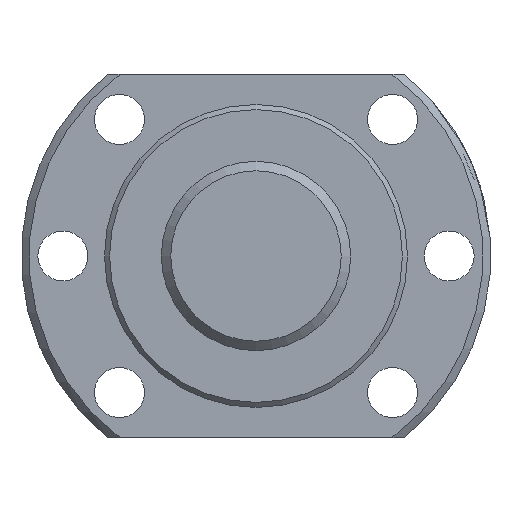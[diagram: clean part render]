
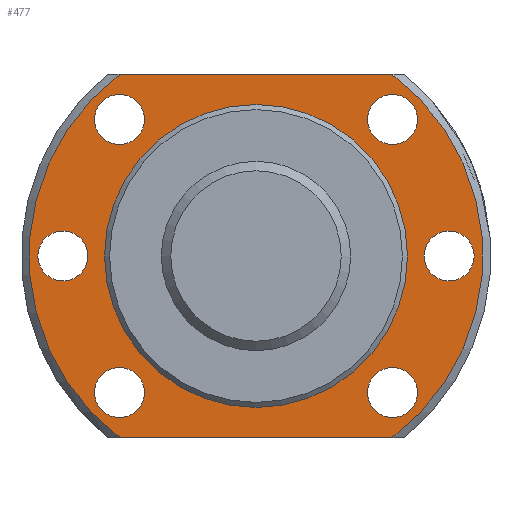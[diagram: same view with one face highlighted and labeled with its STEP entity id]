
A CAD part, left-side view. The second image highlights one B-rep face of the part: STEP entity #477.
In plain terms, the highlighted planar face has unit normal (-1, 0, 0).
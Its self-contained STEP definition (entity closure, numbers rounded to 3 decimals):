
#34=PLANE('',#557);
#61=CIRCLE('',#527,29.967);
#79=CIRCLE('',#556,29.967);
#80=CIRCLE('',#558,20.);
#81=CIRCLE('',#559,3.3);
#82=CIRCLE('',#560,3.3);
#83=CIRCLE('',#561,3.3);
#84=CIRCLE('',#562,3.3);
#85=CIRCLE('',#563,3.3);
#86=CIRCLE('',#564,3.3);
#144=ORIENTED_EDGE('',*,*,#237,.T.);
#145=ORIENTED_EDGE('',*,*,#238,.T.);
#146=ORIENTED_EDGE('',*,*,#239,.F.);
#147=ORIENTED_EDGE('',*,*,#235,.F.);
#148=ORIENTED_EDGE('',*,*,#240,.F.);
#149=ORIENTED_EDGE('',*,*,#208,.F.);
#150=ORIENTED_EDGE('',*,*,#241,.T.);
#151=ORIENTED_EDGE('',*,*,#242,.T.);
#152=ORIENTED_EDGE('',*,*,#243,.T.);
#153=ORIENTED_EDGE('',*,*,#244,.T.);
#154=ORIENTED_EDGE('',*,*,#245,.T.);
#208=EDGE_CURVE('',#259,#260,#61,.T.);
#235=EDGE_CURVE('',#282,#283,#79,.T.);
#237=EDGE_CURVE('',#284,#284,#80,.T.);
#238=EDGE_CURVE('',#285,#285,#81,.F.);
#239=EDGE_CURVE('',#283,#259,#303,.T.);
#240=EDGE_CURVE('',#260,#282,#304,.T.);
#241=EDGE_CURVE('',#286,#286,#82,.T.);
#242=EDGE_CURVE('',#287,#287,#83,.T.);
#243=EDGE_CURVE('',#288,#288,#84,.T.);
#244=EDGE_CURVE('',#289,#289,#85,.T.);
#245=EDGE_CURVE('',#290,#290,#86,.T.);
#259=VERTEX_POINT('',#777);
#260=VERTEX_POINT('',#779);
#282=VERTEX_POINT('',#860);
#283=VERTEX_POINT('',#862);
#284=VERTEX_POINT('',#869);
#285=VERTEX_POINT('',#871);
#286=VERTEX_POINT('',#875);
#287=VERTEX_POINT('',#877);
#288=VERTEX_POINT('',#879);
#289=VERTEX_POINT('',#881);
#290=VERTEX_POINT('',#883);
#303=LINE('',#872,#311);
#304=LINE('',#873,#312);
#311=VECTOR('',#676,1000.);
#312=VECTOR('',#677,1000.);
#343=EDGE_LOOP('',(#144));
#344=EDGE_LOOP('',(#145));
#345=EDGE_LOOP('',(#146,#147,#148,#149));
#346=EDGE_LOOP('',(#150));
#347=EDGE_LOOP('',(#151));
#348=EDGE_LOOP('',(#152));
#349=EDGE_LOOP('',(#153));
#350=EDGE_LOOP('',(#154));
#411=FACE_BOUND('',#343,.T.);
#412=FACE_BOUND('',#344,.T.);
#413=FACE_BOUND('',#345,.T.);
#414=FACE_BOUND('',#346,.T.);
#415=FACE_BOUND('',#347,.T.);
#416=FACE_BOUND('',#348,.T.);
#417=FACE_BOUND('',#349,.T.);
#418=FACE_BOUND('',#350,.T.);
#477=ADVANCED_FACE('',(#411,#412,#413,#414,#415,#416,#417,#418),#34,.T.);
#527=AXIS2_PLACEMENT_3D('',#778,#606,#607);
#556=AXIS2_PLACEMENT_3D('',#861,#668,#669);
#557=AXIS2_PLACEMENT_3D('',#867,#670,#671);
#558=AXIS2_PLACEMENT_3D('',#868,#672,#673);
#559=AXIS2_PLACEMENT_3D('',#870,#674,#675);
#560=AXIS2_PLACEMENT_3D('',#874,#678,#679);
#561=AXIS2_PLACEMENT_3D('',#876,#680,#681);
#562=AXIS2_PLACEMENT_3D('',#878,#682,#683);
#563=AXIS2_PLACEMENT_3D('',#880,#684,#685);
#564=AXIS2_PLACEMENT_3D('',#882,#686,#687);
#606=DIRECTION('',(1.,0.,0.));
#607=DIRECTION('',(0.,0.,-1.));
#668=DIRECTION('',(1.,0.,0.));
#669=DIRECTION('',(0.,0.,-1.));
#670=DIRECTION('',(-1.,0.,0.));
#671=DIRECTION('',(0.,0.,1.));
#672=DIRECTION('',(1.,0.,0.));
#673=DIRECTION('',(0.,0.,-1.));
#674=DIRECTION('',(-1.,0.,0.));
#675=DIRECTION('',(0.,0.,1.));
#676=DIRECTION('',(0.,-1.,0.));
#677=DIRECTION('',(0.,1.,0.));
#678=DIRECTION('',(1.,0.,0.));
#679=DIRECTION('',(0.,0.,-1.));
#680=DIRECTION('',(1.,0.,0.));
#681=DIRECTION('',(0.,0.,-1.));
#682=DIRECTION('',(1.,0.,0.));
#683=DIRECTION('',(0.,0.,-1.));
#684=DIRECTION('',(1.,0.,0.));
#685=DIRECTION('',(0.,0.,-1.));
#686=DIRECTION('',(1.,0.,0.));
#687=DIRECTION('',(0.,0.,-1.));
#777=CARTESIAN_POINT('',(5.,-17.944,24.));
#778=CARTESIAN_POINT('',(5.,0.,0.));
#779=CARTESIAN_POINT('',(5.,-17.944,-24.));
#860=CARTESIAN_POINT('',(5.,17.944,-24.));
#861=CARTESIAN_POINT('',(5.,0.,0.));
#862=CARTESIAN_POINT('',(5.,17.944,24.));
#867=CARTESIAN_POINT('',(5.,29.967,0.));
#868=CARTESIAN_POINT('',(5.,0.,0.));
#869=CARTESIAN_POINT('',(5.,0.,-20.));
#870=CARTESIAN_POINT('',(5.,25.5,0.));
#871=CARTESIAN_POINT('',(5.,25.5,3.3));
#872=CARTESIAN_POINT('',(5.,29.967,24.));
#873=CARTESIAN_POINT('',(5.,29.967,-24.));
#874=CARTESIAN_POINT('',(5.,-18.031,-18.031));
#875=CARTESIAN_POINT('',(5.,-18.031,-21.331));
#876=CARTESIAN_POINT('',(5.,18.031,18.031));
#877=CARTESIAN_POINT('',(5.,18.031,14.731));
#878=CARTESIAN_POINT('',(5.,-18.031,18.031));
#879=CARTESIAN_POINT('',(5.,-18.031,14.731));
#880=CARTESIAN_POINT('',(5.,18.031,-18.031));
#881=CARTESIAN_POINT('',(5.,18.031,-21.331));
#882=CARTESIAN_POINT('',(5.,-25.5,0.));
#883=CARTESIAN_POINT('',(5.,-25.5,-3.3));
